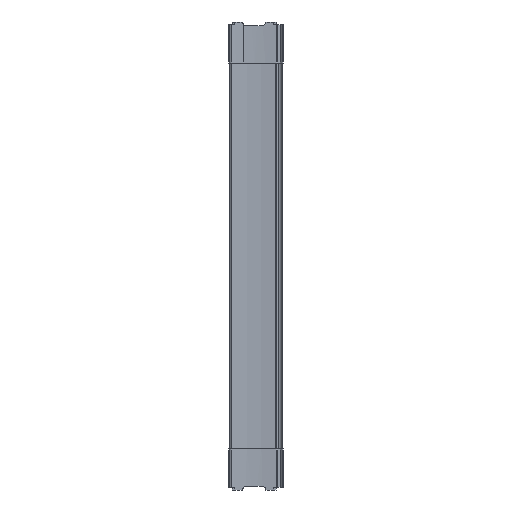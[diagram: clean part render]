
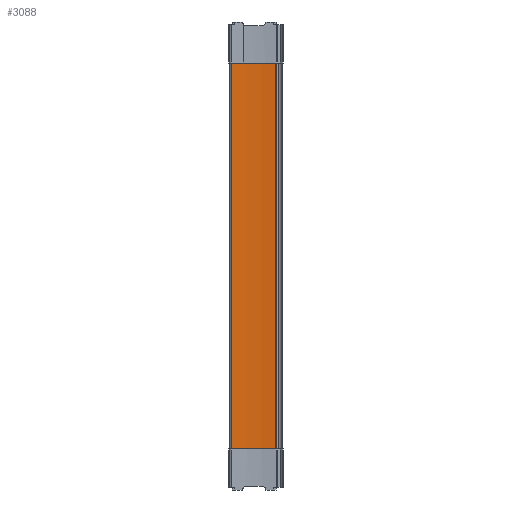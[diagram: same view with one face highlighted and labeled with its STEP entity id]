
A CAD part, left-side view. The second image highlights one B-rep face of the part: STEP entity #3088.
In plain terms, the highlighted cylindrical face has radius 250 mm (diameter 500 mm), a partial arc.
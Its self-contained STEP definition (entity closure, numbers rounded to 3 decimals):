
#39 = CARTESIAN_POINT ( 'NONE',  ( -5.747, 63.571, 247. ) ) ;
#93 = DIRECTION ( 'NONE',  ( 0., 0., -1. ) ) ;
#267 = CYLINDRICAL_SURFACE ( 'NONE', #954, 250. ) ;
#276 = FACE_OUTER_BOUND ( 'NONE', #2284, .T. ) ;
#302 = VECTOR ( 'NONE', #93, 1000. ) ;
#307 = LINE ( 'NONE', #39, #302 ) ;
#591 = EDGE_CURVE ( 'NONE', #3325, #3405, #1876, .T. ) ;
#637 = EDGE_CURVE ( 'NONE', #3405, #3411, #1804, .T. ) ;
#684 = EDGE_CURVE ( 'NONE', #3411, #3579, #1724, .T. ) ;
#795 = EDGE_CURVE ( 'NONE', #3325, #3579, #307, .T. ) ;
#855 = AXIS2_PLACEMENT_3D ( 'NONE', #3841, #3847, #3848 ) ;
#891 = AXIS2_PLACEMENT_3D ( 'NONE', #4102, #4104, #4105 ) ;
#954 = AXIS2_PLACEMENT_3D ( 'NONE', #3019, #3024, #3020 ) ;
#1344 = CARTESIAN_POINT ( 'NONE',  ( -5.747, 63.571, 241. ) ) ;
#1424 = CARTESIAN_POINT ( 'NONE',  ( -8.643, 8.331, 241. ) ) ;
#1430 = CARTESIAN_POINT ( 'NONE',  ( -8.643, 8.331, -241. ) ) ;
#1490 = CARTESIAN_POINT ( 'NONE',  ( -5.747, 63.571, -241. ) ) ;
#1724 = CIRCLE ( 'NONE', #891, 250. ) ;
#1803 = VECTOR ( 'NONE', #3994, 1000. ) ;
#1804 = LINE ( 'NONE', #3993, #1803 ) ;
#1876 = CIRCLE ( 'NONE', #855, 250. ) ;
#2284 = EDGE_LOOP ( 'NONE', ( #2633, #2634, #2620, #2621 ) ) ;
#2620 = ORIENTED_EDGE ( 'NONE', *, *, #591, .F. ) ;
#2621 = ORIENTED_EDGE ( 'NONE', *, *, #795, .T. ) ;
#2633 = ORIENTED_EDGE ( 'NONE', *, *, #684, .F. ) ;
#2634 = ORIENTED_EDGE ( 'NONE', *, *, #637, .F. ) ;
#3019 = CARTESIAN_POINT ( 'NONE',  ( -255.319, 48.963, 247. ) ) ;
#3020 = DIRECTION ( 'NONE',  ( -1., 0., 0. ) ) ;
#3024 = DIRECTION ( 'NONE',  ( 0., 0., -1. ) ) ;
#3088 = ADVANCED_FACE ( 'NONE', ( #276 ), #267, .F. ) ;
#3325 = VERTEX_POINT ( 'NONE', #1344 ) ;
#3405 = VERTEX_POINT ( 'NONE', #1424 ) ;
#3411 = VERTEX_POINT ( 'NONE', #1430 ) ;
#3579 = VERTEX_POINT ( 'NONE', #1490 ) ;
#3841 = CARTESIAN_POINT ( 'NONE',  ( -255.319, 48.963, 241. ) ) ;
#3847 = DIRECTION ( 'NONE',  ( 0., 0., -1. ) ) ;
#3848 = DIRECTION ( 'NONE',  ( 1., 0., 0. ) ) ;
#3993 = CARTESIAN_POINT ( 'NONE',  ( -8.643, 8.331, 247. ) ) ;
#3994 = DIRECTION ( 'NONE',  ( 0., 0., -1. ) ) ;
#4102 = CARTESIAN_POINT ( 'NONE',  ( -255.319, 48.963, -241. ) ) ;
#4104 = DIRECTION ( 'NONE',  ( 0., 0., 1. ) ) ;
#4105 = DIRECTION ( 'NONE',  ( -1., 0., 0. ) ) ;
